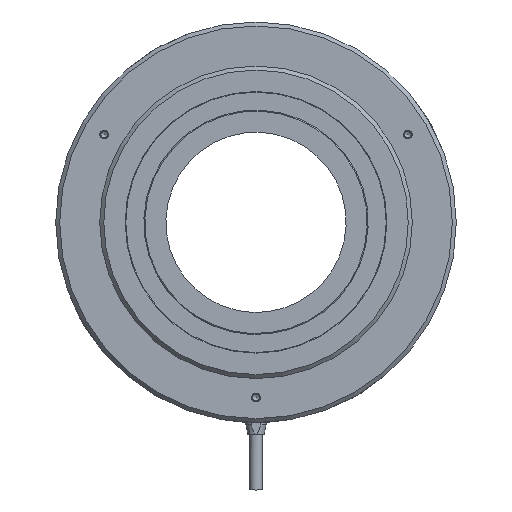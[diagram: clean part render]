
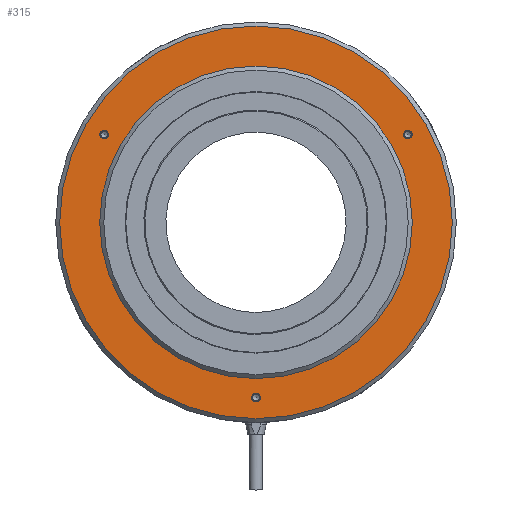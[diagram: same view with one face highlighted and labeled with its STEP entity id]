
A CAD part, left-side view. The second image highlights one B-rep face of the part: STEP entity #315.
In plain terms, the highlighted planar face has unit normal (-1, 0, 0).
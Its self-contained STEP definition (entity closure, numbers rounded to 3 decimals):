
#315=ADVANCED_FACE('',(#715,#716,#717,#718,#719),#720,.F.);
#715=FACE_OUTER_BOUND('',#1341,.T.);
#716=FACE_BOUND('',#1342,.T.);
#717=FACE_BOUND('',#1343,.T.);
#718=FACE_BOUND('',#1344,.T.);
#719=FACE_BOUND('',#1345,.T.);
#720=PLANE('',#1346);
#1341=EDGE_LOOP('',(#2071));
#1342=EDGE_LOOP('',(#2072));
#1343=EDGE_LOOP('',(#2073));
#1344=EDGE_LOOP('',(#2074));
#1345=EDGE_LOOP('',(#2075));
#1346=AXIS2_PLACEMENT_3D('',#2076,#2077,#2078);
#2071=ORIENTED_EDGE('',*,*,#3151,.T.);
#2072=ORIENTED_EDGE('',*,*,#3152,.T.);
#2073=ORIENTED_EDGE('',*,*,#3153,.T.);
#2074=ORIENTED_EDGE('',*,*,#3154,.T.);
#2075=ORIENTED_EDGE('',*,*,#3155,.F.);
#2076=CARTESIAN_POINT('',(0.,89.0,0.0));
#2077=DIRECTION('',(1.0,0.0,0.0));
#2078=DIRECTION('',(0.0,0.0,-1.0));
#3151=EDGE_CURVE('',#3717,#3717,#3718,.F.);
#3152=EDGE_CURVE('',#3719,#3719,#3720,.T.);
#3153=EDGE_CURVE('',#3721,#3721,#3722,.T.);
#3154=EDGE_CURVE('',#3723,#3723,#3724,.T.);
#3155=EDGE_CURVE('',#3725,#3725,#3726,.T.);
#3717=VERTEX_POINT('',#4888);
#3718=CIRCLE('',#4889,98.0);
#3719=VERTEX_POINT('',#4890);
#3720=CIRCLE('',#4891,2.15);
#3721=VERTEX_POINT('',#4892);
#3722=CIRCLE('',#4893,2.15);
#3723=VERTEX_POINT('',#4894);
#3724=CIRCLE('',#4895,2.15);
#3725=VERTEX_POINT('',#4896);
#3726=CIRCLE('',#4897,78.0);
#4888=CARTESIAN_POINT('',(0.,0.,-98.0));
#4889=AXIS2_PLACEMENT_3D('',#6159,#6160,#6161);
#4890=CARTESIAN_POINT('',(0.,-2.15,-87.5));
#4891=AXIS2_PLACEMENT_3D('',#6162,#6163,#6164);
#4892=CARTESIAN_POINT('',(0.,-77.927,43.75));
#4893=AXIS2_PLACEMENT_3D('',#6165,#6166,#6167);
#4894=CARTESIAN_POINT('',(0.,73.627,43.75));
#4895=AXIS2_PLACEMENT_3D('',#6168,#6169,#6170);
#4896=CARTESIAN_POINT('',(0.0,0.0,78.0));
#4897=AXIS2_PLACEMENT_3D('',#6171,#6172,#6173);
#6159=CARTESIAN_POINT('',(0.,0.0,0.0));
#6160=DIRECTION('',(1.0,0.0,0.0));
#6161=DIRECTION('',(0.0,0.0,-1.0));
#6162=CARTESIAN_POINT('',(0.,0.,-87.5));
#6163=DIRECTION('',(1.0,0.0,0.0));
#6164=DIRECTION('',(0.0,-1.0,0.0));
#6165=CARTESIAN_POINT('',(0.,-75.777,43.75));
#6166=DIRECTION('',(1.0,0.0,0.0));
#6167=DIRECTION('',(0.0,-1.0,0.0));
#6168=CARTESIAN_POINT('',(0.,75.777,43.75));
#6169=DIRECTION('',(1.0,0.0,0.0));
#6170=DIRECTION('',(0.0,-1.0,0.0));
#6171=CARTESIAN_POINT('',(0.0,0.0,0.0));
#6172=DIRECTION('',(-1.0,0.0,0.0));
#6173=DIRECTION('',(0.0,0.0,1.0));
